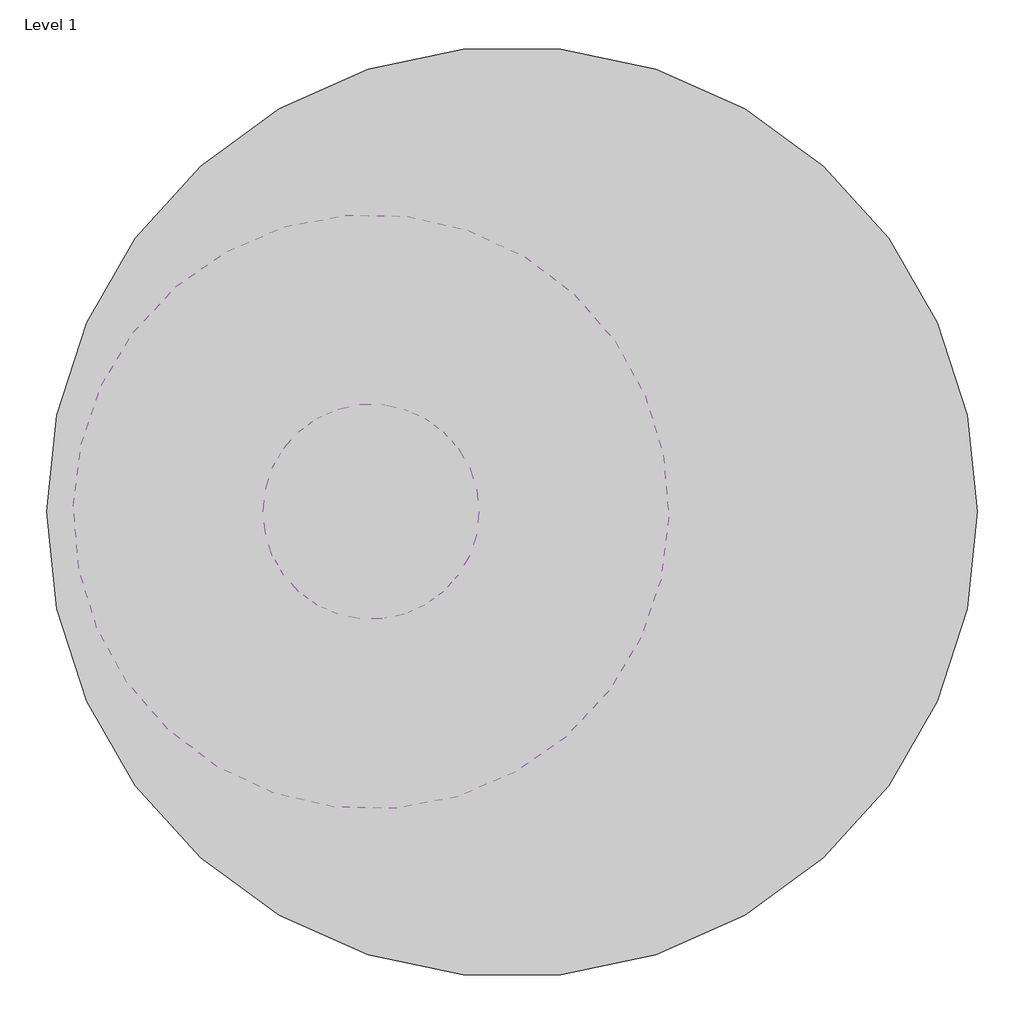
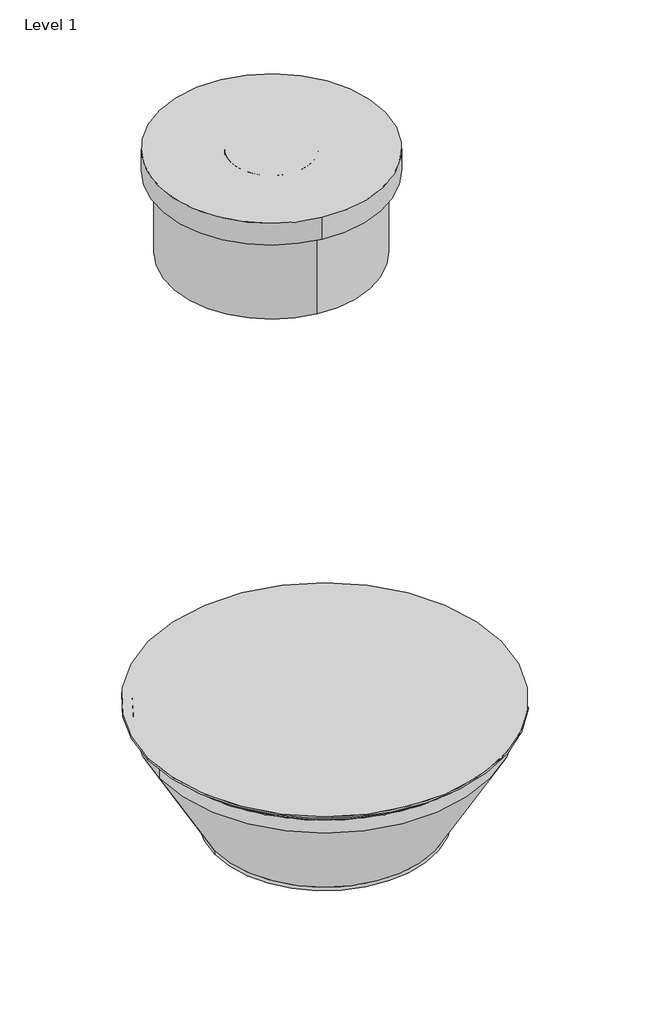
# One storey, incomplete: 3 proxies.
"""IFC4 building model written with IfcOpenShell, lengths in millimetres."""

from ifc_helpers import new_model, si_unit, origin, place, context, project, spatial, transform, mapped, element, save
from components import generic_models_b13ae392, generic_models_55b92837, generic_models_4a861181

model = new_model("IFC4")

# Units and contexts
model_context = context("Model", 3, world=origin())
ifc_project = project(units=[si_unit("LENGTHUNIT", "METRE", prefix="MILLI")], contexts=[model_context])

# Site, building, storey
site = spatial("IfcSite", under=ifc_project)
building = spatial("IfcBuilding", under=site)
storey = spatial("IfcBuildingStorey", under=building, Name="Level 1", Elevation=0.0)

# Proxies
placement = place(None, origin())
generic_models_shape = generic_models_b13ae392(model_context)
element("IfcBuildingElementProxy", 1, Name="600mm Cass B Cover-02", ObjectType="600mm Cass B Cover-02", at=placement, inside=storey, context=model_context, shape_type="MappedRepresentation", body=[
    mapped(generic_models_shape, transform((-490.0, 0.0, 2700.0), x_axis=(1.0, 0.0, 0.0), y_axis=(0.0, 0.0, 1.0), z_axis=(0.0, -1.0, 0.0))),
])
generic_models_2_shape = generic_models_55b92837(model_context)
element("IfcBuildingElementProxy", 2, Name="Ipart.TGPT.Large Riser-04", ObjectType="Ipart.TGPT.Large Riser-04", at=placement, inside=storey, context=model_context, shape_type="MappedRepresentation", body=[
    mapped(generic_models_2_shape, transform((-490.0, 0.0, 1750.0), x_axis=(-0.1231008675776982, -0.9923941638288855, 0.0), y_axis=(0.0, 0.0, 0.9999999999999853), z_axis=(-0.9923941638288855, 0.1231008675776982, 0.0))),
])
generic_models_3_shape = generic_models_4a861181(model_context)
element("IfcBuildingElementProxy", 3, Name="Ipart.TGPT.Base-04", ObjectType="Ipart.TGPT.Base-04", at=placement, inside=storey, context=model_context, shape_type="MappedRepresentation", body=[
    mapped(generic_models_3_shape, transform((0.0, 0.0, -3910.0), x_axis=(-1.0, 0.0, 0.0), y_axis=(0.0, 0.0, 1.0), z_axis=(0.0, 1.0, 0.0))),
])

save(model, "model.ifc")
